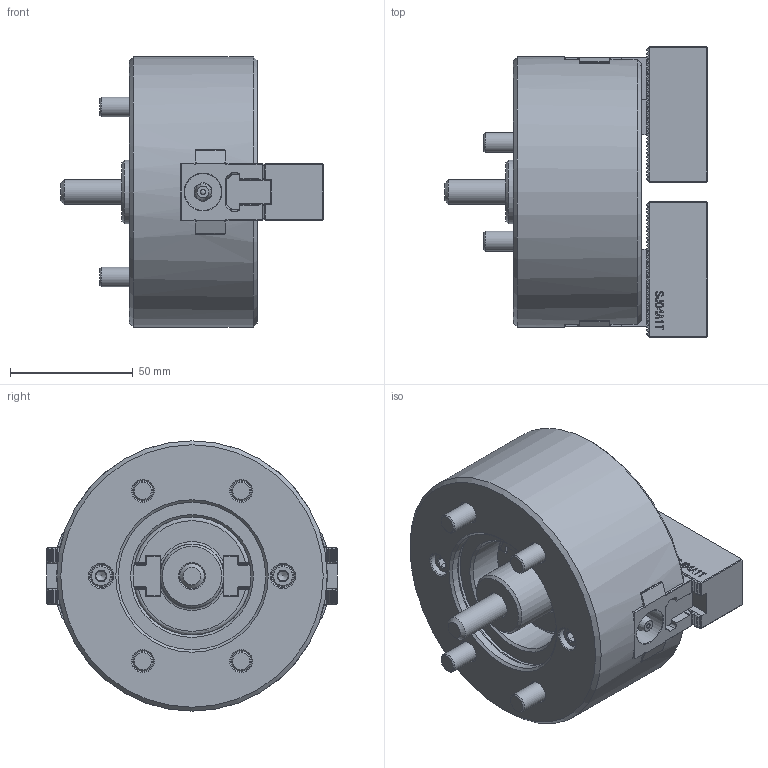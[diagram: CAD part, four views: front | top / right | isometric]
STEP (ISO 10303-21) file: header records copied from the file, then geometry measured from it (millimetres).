
FILE_DESCRIPTION (( 'STEP AP214' ), '1' );
FILE_NAME ('DT1_NT04_OUTSIDE_VIEW_UC.STEP', '2024-05-14T00:50:38', ( '' ), ( '' ), 'SwSTEP 2.0', 'SolidWorks 2022', '' );
FILE_SCHEMA (( 'AUTOMOTIVE_DESIGN' ));
Length unit declared in the file: millimetre
Products named in the file (10): DT1_NT04_DRAWSCREW^DT1_NT04_ﾃﾞﾌｫﾙﾄ; DT1_NT04_SOFTJAW^DT1_NT04_ﾃﾞﾌｫﾙﾄ; DT1_NT04_BASE^DT1_NT04_ﾃﾞﾌｫﾙﾄ; DT1_NT04_DN^DT1_NT04_ﾃﾞﾌｫﾙﾄ; DT1_NT04_M8x22^DT1_NT04_ﾃﾞﾌｫﾙﾄ; DT1_NT04_COVER^DT1_NT04_ﾃﾞﾌｫﾙﾄ; DT1_NT04_M8x55^DT1_NT04_ﾃﾞﾌｫﾙﾄ; DT1_NT04_M3x8^DT1_NT04_ﾃﾞﾌｫﾙﾄ; DT1_NT04_OUTSIDE_VIEW_UC; DT1_NT04_TNUT^DT1_NT04_ﾃﾞﾌｫﾙﾄ
Assembly tree (20 placements, depth 2):
  DT1_NT04_OUTSIDE_VIEW_UC
    DT1_NT04_SOFTJAW^DT1_NT04_ﾃﾞﾌｫﾙﾄ  x2
    DT1_NT04_TNUT^DT1_NT04_ﾃﾞﾌｫﾙﾄ  x2
    DT1_NT04_COVER^DT1_NT04_ﾃﾞﾌｫﾙﾄ
    DT1_NT04_DRAWSCREW^DT1_NT04_ﾃﾞﾌｫﾙﾄ
    DT1_NT04_DN^DT1_NT04_ﾃﾞﾌｫﾙﾄ
    DT1_NT04_BASE^DT1_NT04_ﾃﾞﾌｫﾙﾄ
    DT1_NT04_M8x22^DT1_NT04_ﾃﾞﾌｫﾙﾄ  x4
    DT1_NT04_M8x55^DT1_NT04_ﾃﾞﾌｫﾙﾄ  x4
    DT1_NT04_M3x8^DT1_NT04_ﾃﾞﾌｫﾙﾄ  x4
Bounding box: 107 x 118.1 x 110 mm (x, y, z)
Volume: 510704.7 mm3; surface area: 106515.4 mm2
Topology: 20 solids, 22 shells, 2568 faces, 7191 edges, 4705 vertices
Faces by surface type: plane 1824, cylinder 413, bspline 170, cone 134, torus 25, sphere 2
Full cylindrical faces by diameter (mm): 2 x2, 2.5 x4, 2.693 x4, 3 x4, 3.2 x4, 5 x2, 6 x4, 6.3 x4, 6.8 x4, 7 x1, 8 x8, 8.5 x9, 8.72 x2, 9.5 x2, 10 x2, 11 x1, 13.27 x8, 13.5 x4, 14 x5, 14.5 x1, 14.6 x1, 15 x2, 26 x1, 48 x1, 60 x1, 61 x1, 110 x1
Entity records: 67412 total; most frequent: CARTESIAN_POINT 19217, ORIENTED_EDGE 10584, DIRECTION 8660, EDGE_CURVE 5292, VECTOR 4074, LINE 4074, VERTEX_POINT 3531, AXIS2_PLACEMENT_3D 2293
